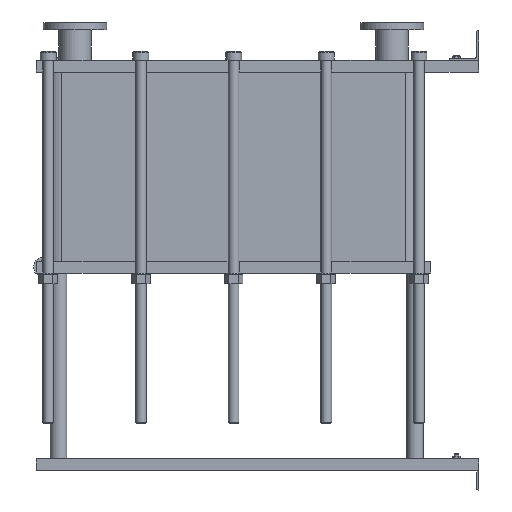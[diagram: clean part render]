
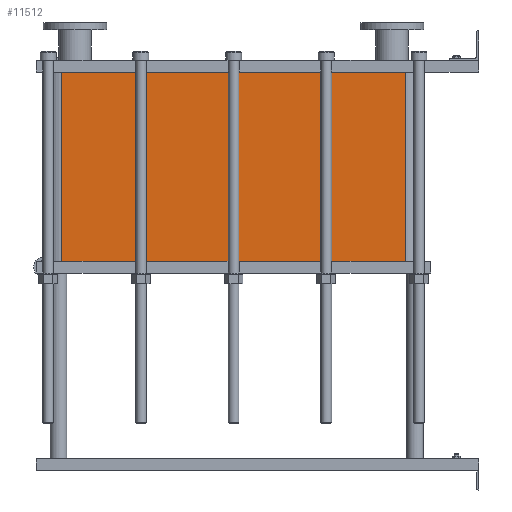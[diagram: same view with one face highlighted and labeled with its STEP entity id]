
A CAD part, left-side view. The second image highlights one B-rep face of the part: STEP entity #11512.
In plain terms, the highlighted planar face has unit normal (-1, 0, 0).
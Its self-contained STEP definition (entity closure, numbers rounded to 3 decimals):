
#1129=LINE('',#23232,#2102);
#1130=LINE('',#23236,#2103);
#1131=LINE('',#23238,#2104);
#1132=LINE('',#23239,#2105);
#2102=VECTOR('',#15887,10.);
#2103=VECTOR('',#15892,10.);
#2104=VECTOR('',#15893,10.);
#2105=VECTOR('',#15894,10.);
#3267=FACE_OUTER_BOUND('',#4093,.T.);
#4093=EDGE_LOOP('',(#10103,#10104,#10105,#10106));
#5642=VERTEX_POINT('',#23229);
#5643=VERTEX_POINT('',#23231);
#5644=VERTEX_POINT('',#23235);
#5645=VERTEX_POINT('',#23237);
#7159=EDGE_CURVE('',#5643,#5642,#1129,.T.);
#7161=EDGE_CURVE('',#5642,#5644,#1130,.T.);
#7162=EDGE_CURVE('',#5645,#5644,#1131,.T.);
#7163=EDGE_CURVE('',#5645,#5643,#1132,.T.);
#10103=ORIENTED_EDGE('',*,*,#7161,.T.);
#10104=ORIENTED_EDGE('',*,*,#7162,.F.);
#10105=ORIENTED_EDGE('',*,*,#7163,.T.);
#10106=ORIENTED_EDGE('',*,*,#7159,.T.);
#10857=PLANE('',#12751);
#11512=ADVANCED_FACE('',(#3267),#10857,.T.);
#12751=AXIS2_PLACEMENT_3D('',#23234,#15890,#15891);
#15887=DIRECTION('',(0.,0.,-1.));
#15890=DIRECTION('center_axis',(-1.,0.,0.));
#15891=DIRECTION('ref_axis',(0.,1.,0.));
#15892=DIRECTION('',(0.,-1.,0.));
#15893=DIRECTION('',(0.,0.,-1.));
#15894=DIRECTION('',(0.,1.,0.));
#23229=CARTESIAN_POINT('',(-200.,1414.,-641.7));
#23231=CARTESIAN_POINT('',(-200.,1414.,0.));
#23232=CARTESIAN_POINT('',(-200.,1414.,0.));
#23234=CARTESIAN_POINT('Origin',(-200.,248.,0.));
#23235=CARTESIAN_POINT('',(-200.,248.,-641.7));
#23236=CARTESIAN_POINT('',(-200.,539.5,-641.7));
#23237=CARTESIAN_POINT('',(-200.,248.,0.));
#23238=CARTESIAN_POINT('',(-200.,248.,0.));
#23239=CARTESIAN_POINT('',(-200.,248.,0.));
